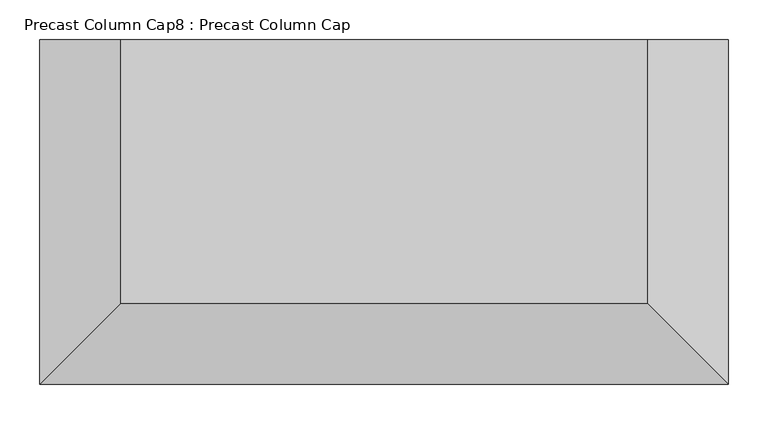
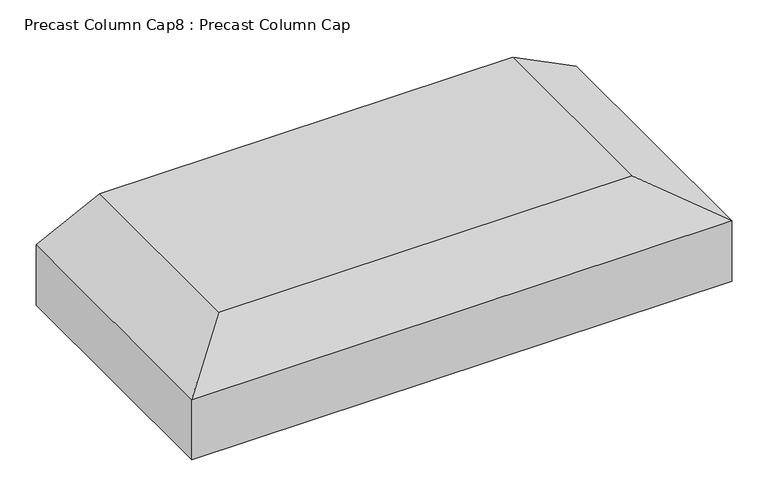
"""IFC4 building model written with IfcOpenShell, lengths in millimetres: proxy geometry, Precast Column Cap8 : Precast Column Cap."""

from ifc_helpers import new_model, si_unit, origin, place, context, project, spatial, faceted_brep, source, transform, mapped, element, save


def precast_column_cap8_precast_column_cap_329b37f6(model_context):
    return source(origin(), model_context, "Body", "Brep", [
        faceted_brep([(-17408.635253, -974.5989595, 33070.8), (-18069.035253, -974.5989595, 33070.8), (-18069.035253, -1304.7989595, 33070.8), (-17408.635253, -1304.7989595, 33070.8), (-17307.035253, -974.5989595, 33020.0), (-17307.035253, -974.5989595, 32918.4), (-18170.635253, -974.5989595, 32918.4), (-18170.635253, -974.5989595, 33020.0), (-18170.635253, -1406.3989595, 33020.0), (-17307.035253, -1406.3989595, 33020.0), (-17307.035253, -1406.3989595, 32918.4), (-18170.635253, -1406.3989595, 32918.4)], [[[0, 1, 2, 3]], [[1, 0, 4, 5, 6, 7]], [[2, 1, 7, 8]], [[3, 2, 8, 9]], [[0, 3, 9, 4]], [[10, 11, 6, 5]], [[10, 5, 4, 9]], [[6, 11, 8, 7]], [[11, 10, 9, 8]]]),
    ])


if __name__ == "__main__":
    model = new_model("IFC4")
    model_context = context("Model", 3, world=origin())
    ifc_project = project(units=[si_unit("LENGTHUNIT", "METRE", prefix="MILLI")], contexts=[model_context])
    site = spatial("IfcSite", under=ifc_project)
    building = spatial("IfcBuilding", under=site)
    placement = place(None, origin())
    precast_column_cap8_precast_column_cap_shape = precast_column_cap8_precast_column_cap_329b37f6(model_context)
    element("IfcBuildingElementProxy", 1, Name="Precast Column Cap8 : Precast Column Cap", ObjectType="Precast Column Cap8 : Precast Column Cap", at=placement, inside=building, context=model_context, shape_type="MappedRepresentation", body=[
        mapped(precast_column_cap8_precast_column_cap_shape, transform((0.0, 0.0, 0.0), x_axis=(1.0, 0.0, 0.0), y_axis=(0.0, 1.0, 0.0), z_axis=(0.0, 0.0, 1.0))),
    ])
    save(model, "model.ifc")
